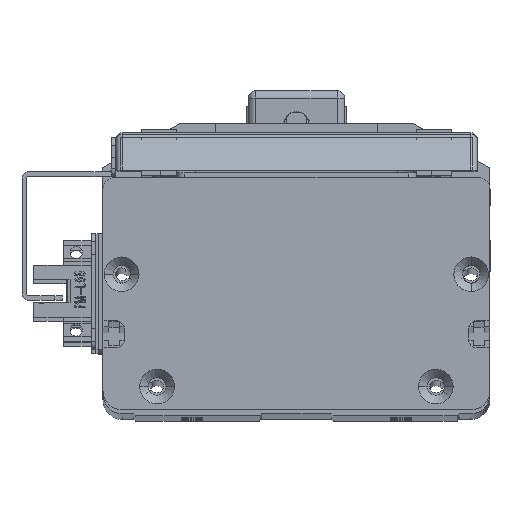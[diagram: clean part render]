
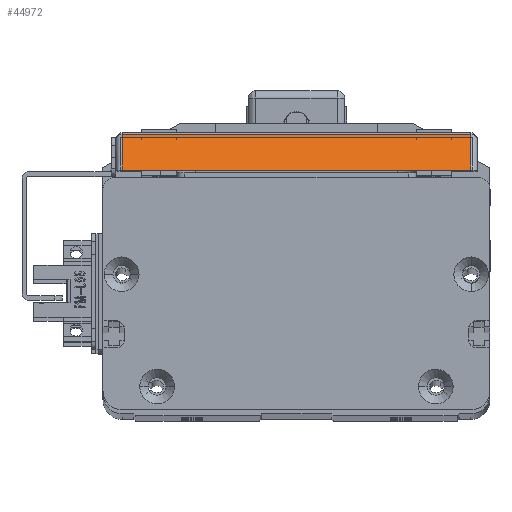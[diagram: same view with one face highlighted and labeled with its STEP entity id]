
A CAD part, top view. The second image highlights one B-rep face of the part: STEP entity #44972.
In plain terms, the highlighted planar face has unit normal (0, 0.707, 0.707) as drawn and (-0.707, 0, -0.707) by its records, which use the part's own axes.
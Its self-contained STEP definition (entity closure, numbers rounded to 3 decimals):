
#27 = VERTEX_POINT ( 'NONE', #50039 ) ;
#682 = ORIENTED_EDGE ( 'NONE', *, *, #67027, .T. ) ;
#1094 = VECTOR ( 'NONE', #35429, 1000. ) ;
#2286 = ORIENTED_EDGE ( 'NONE', *, *, #26418, .T. ) ;
#2500 = VECTOR ( 'NONE', #63490, 1000. ) ;
#5808 = CARTESIAN_POINT ( 'NONE',  ( -66.5, 93.4, 4.1 ) ) ;
#8728 = LINE ( 'NONE', #24893, #43614 ) ;
#9584 = ORIENTED_EDGE ( 'NONE', *, *, #37099, .T. ) ;
#11060 = VECTOR ( 'NONE', #48300, 1000. ) ;
#13940 = VERTEX_POINT ( 'NONE', #33906 ) ;
#15380 = PLANE ( 'NONE',  #46289 ) ;
#24521 = CARTESIAN_POINT ( 'NONE',  ( -57.298, 93.4, -5.102 ) ) ;
#24893 = CARTESIAN_POINT ( 'NONE',  ( -68., 91.7, 5.6 ) ) ;
#26418 = EDGE_CURVE ( 'NONE', #13940, #36265, #66614, .T. ) ;
#27023 = CARTESIAN_POINT ( 'NONE',  ( -66.5, 91.7, 4.1 ) ) ;
#30123 = CARTESIAN_POINT ( 'NONE',  ( -57.298, 1.7, -5.102 ) ) ;
#33286 = LINE ( 'NONE', #58622, #2500 ) ;
#33632 = ORIENTED_EDGE ( 'NONE', *, *, #40450, .T. ) ;
#33906 = CARTESIAN_POINT ( 'NONE',  ( -57.298, 91.7, -5.102 ) ) ;
#35429 = DIRECTION ( 'NONE',  ( 0., -1., 0. ) ) ;
#36265 = VERTEX_POINT ( 'NONE', #30123 ) ;
#37099 = EDGE_CURVE ( 'NONE', #36265, #27, #33286, .T. ) ;
#39701 = FACE_OUTER_BOUND ( 'NONE', #67863, .T. ) ;
#40450 = EDGE_CURVE ( 'NONE', #27, #41473, #53391, .T. ) ;
#41473 = VERTEX_POINT ( 'NONE', #27023 ) ;
#43614 = VECTOR ( 'NONE', #68156, 1000. ) ;
#44972 = ADVANCED_FACE ( 'NONE', ( #39701 ), #15380, .T. ) ;
#46289 = AXIS2_PLACEMENT_3D ( 'NONE', #67707, #62162, #62841 ) ;
#48300 = DIRECTION ( 'NONE',  ( 0., 1., 0. ) ) ;
#50039 = CARTESIAN_POINT ( 'NONE',  ( -66.5, 1.7, 4.1 ) ) ;
#53391 = LINE ( 'NONE', #5808, #11060 ) ;
#58622 = CARTESIAN_POINT ( 'NONE',  ( -68., 1.7, 5.6 ) ) ;
#62162 = DIRECTION ( 'NONE',  ( -0.707, 0., -0.707 ) ) ;
#62841 = DIRECTION ( 'NONE',  ( -0.707, 0., 0.707 ) ) ;
#63490 = DIRECTION ( 'NONE',  ( -0.707, 0., 0.707 ) ) ;
#66614 = LINE ( 'NONE', #24521, #1094 ) ;
#67027 = EDGE_CURVE ( 'NONE', #41473, #13940, #8728, .T. ) ;
#67707 = CARTESIAN_POINT ( 'NONE',  ( -68., 93.4, 5.6 ) ) ;
#67863 = EDGE_LOOP ( 'NONE', ( #9584, #33632, #682, #2286 ) ) ;
#68156 = DIRECTION ( 'NONE',  ( 0.707, 0., -0.707 ) ) ;
